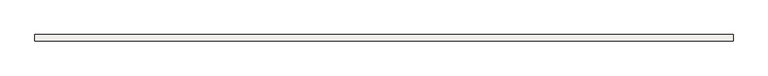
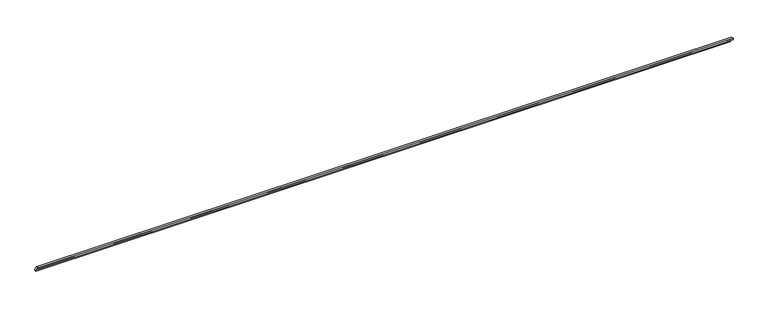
"""IFC4 building model written with IfcOpenShell, lengths in millimetres: slab geometry, ROSA GRES_138 : Pieza 138_Aqua_Plomo_Anti-Slip."""

from ifc_helpers import new_model, si_unit, point, frame, frame_2d, origin, origin_2d, place, context, project, spatial, polyline, circle_curve, trimmed, segment, composite_curve, outline, extrude, source, transform, mapped, element, save


def slab_b2810ed7(model_context):
    return source(origin(), model_context, "Body", "SweptSolid", [
        extrude(outline(composite_curve([segment(trimmed(circle_curve(origin_2d(), 40.0), [point((0.0, 40.0))], [point((40.0, 0.0))], False, "CARTESIAN"), True, "CONTINUOUS"), segment(polyline([(40.0, 0.0), (30.0265886, 0.0)]), True, "CONTINUOUS"), segment(trimmed(circle_curve(frame_2d((0.0044453, 0.0044453)), 30.0221435), [point((30.0265886, 0.0))], [point((0.0, 30.0265886))], True, "CARTESIAN"), True, "CONTINUOUS"), segment(polyline([(0.0, 30.0265886), (0.0, 40.0)]), True, "CONTINUOUS")], self_intersect=False)), frame((0.0, 0.0, 0.0), z_axis=(1.0, 0.0, 0.0), x_axis=(0.0, 1.0, 0.0)), (0.0, 0.0, 1.0), 4491.500834),
    ])


if __name__ == "__main__":
    model = new_model("IFC4")
    model_context = context("Model", 3, world=origin())
    ifc_project = project(units=[si_unit("LENGTHUNIT", "METRE", prefix="MILLI")], contexts=[model_context])
    site = spatial("IfcSite", under=ifc_project)
    building = spatial("IfcBuilding", under=site)
    placement = place(None, origin())
    slab_shape = slab_b2810ed7(model_context)
    element("IfcSlab", 1, ObjectType="ROSA GRES_138 : Pieza 138_Aqua_Plomo_Anti-Slip", at=placement, inside=building, context=model_context, shape_type="MappedRepresentation", body=[
        mapped(slab_shape, transform((0.0, 0.0, 0.0), x_axis=(1.0, 0.0, 0.0), y_axis=(0.0, 1.0, 0.0), z_axis=(0.0, 0.0, 1.0))),
    ])
    save(model, "model.ifc")
